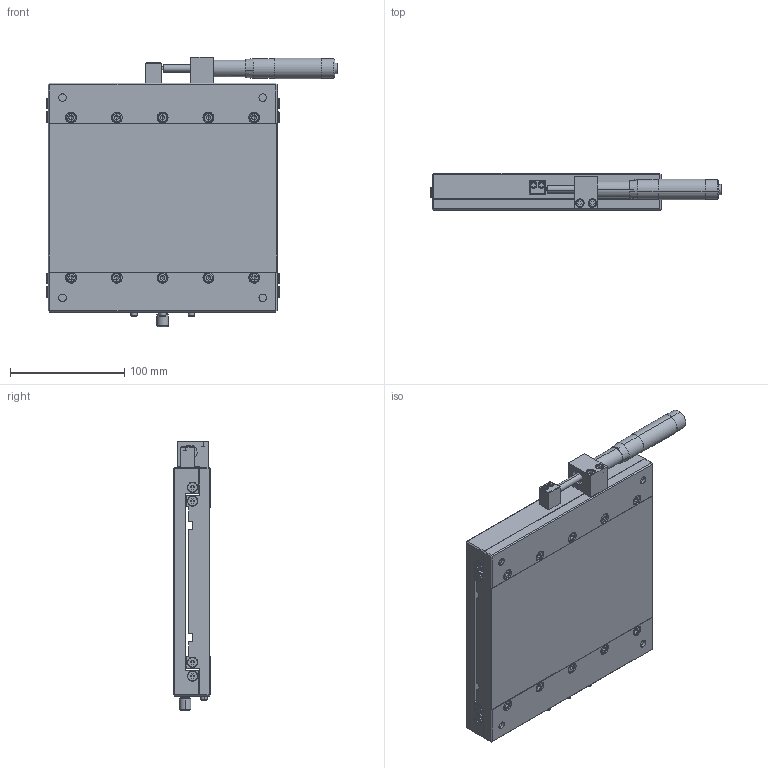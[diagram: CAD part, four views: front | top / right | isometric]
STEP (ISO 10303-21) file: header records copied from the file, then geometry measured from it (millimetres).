
FILE_DESCRIPTION (( 'STEP AP203' ), '1' );
FILE_NAME ('LX200-L.STEP', '2013-12-29T07:20:52', ( 'pengyu' ), ( '' ), 'SwSTEP 2.0', 'SolidWorks 2011', '' );
FILE_SCHEMA (( 'CONFIG_CONTROL_DESIGN' ));
Length unit declared in the file: millimetre
Products named in the file (4): L200L-1; L200L-2; MT50-1-1; LX200-L
Assembly tree (3 placements, depth 2):
  LX200-L
    L200L-2
    L200L-1
    MT50-1-1
Bounding box: 255.17 x 32 x 236 mm (x, y, z)
Volume: 1203796.7 mm3; surface area: 232594.6 mm2
Topology: 3 solids, 6 shells, 1028 faces, 2561 edges, 1615 vertices
Faces by surface type: plane 582, cylinder 293, bspline 91, cone 62
Entity records: 32392 total; most frequent: CARTESIAN_POINT 7321, DIRECTION 5213, ORIENTED_EDGE 5034, EDGE_CURVE 2517, AXIS2_PLACEMENT_3D 1855, VERTEX_POINT 1615, LINE 1503, VECTOR 1503
